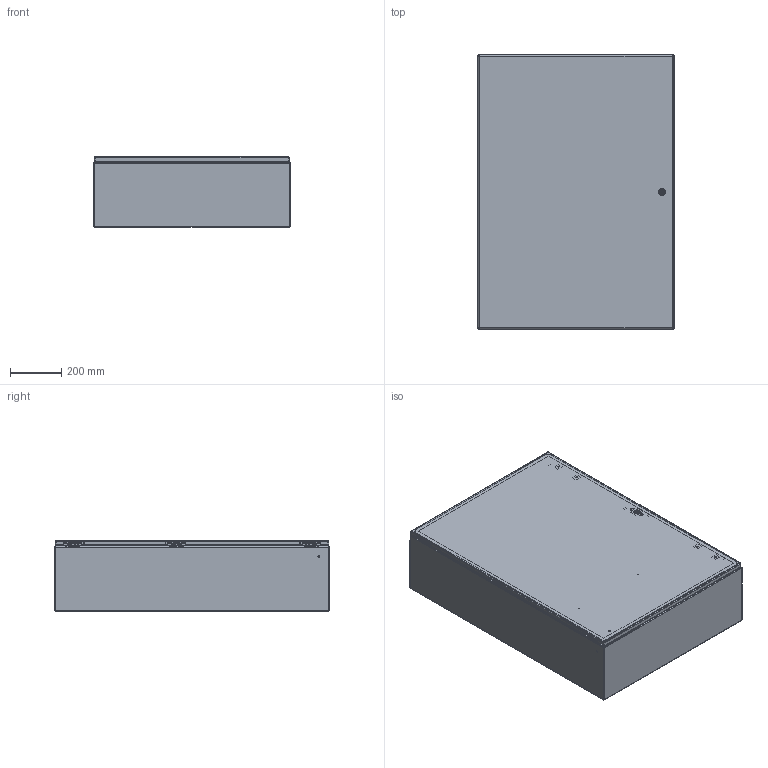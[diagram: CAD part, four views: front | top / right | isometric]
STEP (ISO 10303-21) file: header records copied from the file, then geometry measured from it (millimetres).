
FILE_DESCRIPTION (( 'STEP AP203' ), '1' );
FILE_NAME ('29424.step', '2015-03-30T06:28:01', ( '' ), ( '' ), 'SwSTEP 2.0', 'SolidWorks 2010', '' );
FILE_SCHEMA (( 'CONFIG_CONTROL_DESIGN' ));
Length unit declared in the file: inch
Products named in the file (32): 87929507; 87929767; 87929769_Installed on Pin; 29424; 89117088; 89117087_default; 89117086_default; 89117085_default; 23271001_After Weld; 89117081_assy; 89117080_weldment; 89117079; 99401225; 87931362_87931362; 87408407_Unlocked; 64102001_Latch Open; 87540678; 64210001; 64202001; 64208001; 64205001; 87541995; 87541994_Installed Height; 64206004; 64207001; 64103001; 99411834; 89117082; 87543027; 89076399; 89076193; 89056623
Assembly tree (51 placements, depth 5):
  29424
    89076399  x3
      89056623
      89076193
    87543027  x3
    89117088
      99401225
      89117085_default
      23271001_After Weld  x6
      89117086_default
      89117087_default
    87929507  x3
      87929769_Installed on Pin
      87929767
    89117081_assy
      87408407_Unlocked
        64102001_Latch Open
          87540678
          64205001  x2
          87541995
          64202001
          64210001
          87541994_Installed Height
          64208001
        64103001  x4
        64207001  x2
        64206004  x2
        99411834  x2
      89117082
      89117080_weldment
        99401225
        87931362_87931362  x2
        89117079
Bounding box: 762 x 1066.8 x 274.7 mm (x, y, z)
Volume: 5283800.6 mm3; surface area: 5656344.8 mm2
Topology: 49 solids, 49 shells, 3293 faces, 8568 edges, 5398 vertices
Faces by surface type: plane 1478, cylinder 903, bspline 626, torus 163, cone 87, sphere 36
Entity records: 72587 total; most frequent: CARTESIAN_POINT 25842, ORIENTED_EDGE 9372, DIRECTION 8208, EDGE_CURVE 4686, VERTEX_POINT 2963, AXIS2_PLACEMENT_3D 2769, LINE 2670, VECTOR 2670
